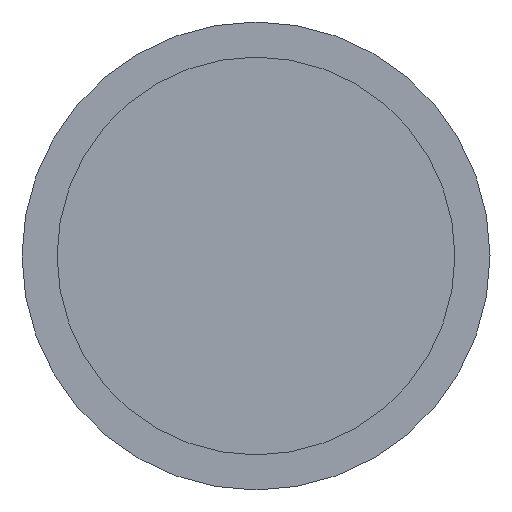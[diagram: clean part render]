
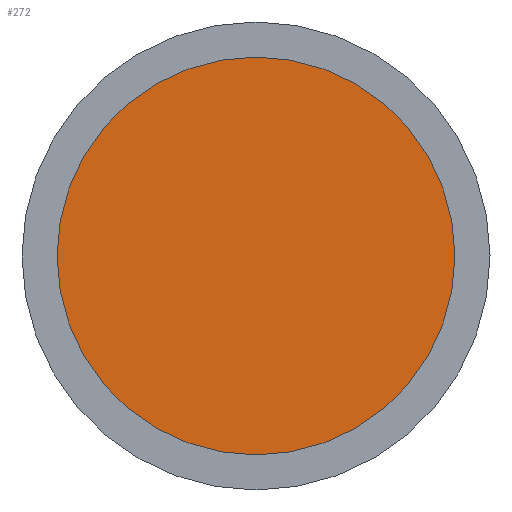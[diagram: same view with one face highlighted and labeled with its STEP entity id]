
A CAD part, left-side view. The second image highlights one B-rep face of the part: STEP entity #272.
In plain terms, the highlighted planar face has unit normal (-1, 0, 0).
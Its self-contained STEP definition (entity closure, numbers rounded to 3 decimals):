
#272 = ADVANCED_FACE( '', ( #557 ), #558, .F. );
#557 = FACE_OUTER_BOUND( '', #925, .T. );
#558 = PLANE( '', #926 );
#925 = EDGE_LOOP( '', ( #1263 ) );
#926 = AXIS2_PLACEMENT_3D( '', #1264, #1265, #1266 );
#1263 = ORIENTED_EDGE( '', *, *, #1675, .T. );
#1264 = CARTESIAN_POINT( '', ( -155., -87., 100.466 ) );
#1265 = DIRECTION( '', ( 1., 0., 0. ) );
#1266 = DIRECTION( '', ( 0., 0., 1. ) );
#1675 = EDGE_CURVE( '', #1853, #1853, #1854, .T. );
#1853 = VERTEX_POINT( '', #2079 );
#1854 = CIRCLE( '', #2080, 79.5 );
#2079 = CARTESIAN_POINT( '', ( -155., 0., -79.5 ) );
#2080 = AXIS2_PLACEMENT_3D( '', #2316, #2317, #2318 );
#2316 = CARTESIAN_POINT( '', ( -155., 0., 0. ) );
#2317 = DIRECTION( '', ( -1., 0., 0. ) );
#2318 = DIRECTION( '', ( 0., 0., -1. ) );
